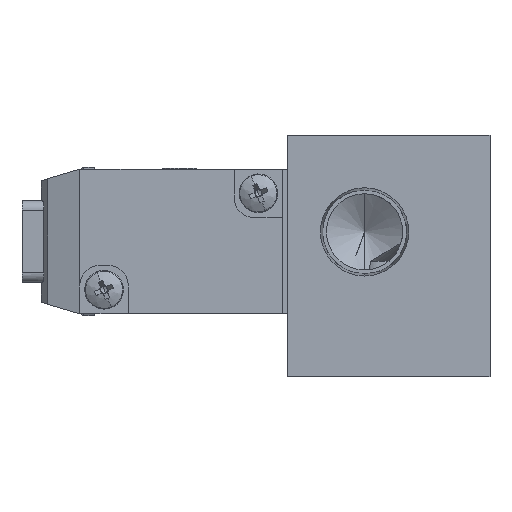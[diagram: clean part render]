
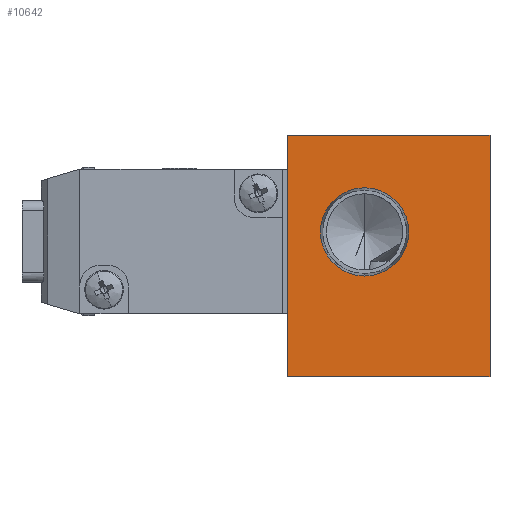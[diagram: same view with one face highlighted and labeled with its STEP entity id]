
A CAD part, left-side view. The second image highlights one B-rep face of the part: STEP entity #10642.
In plain terms, the highlighted planar face has unit normal (-1, 0, 0).
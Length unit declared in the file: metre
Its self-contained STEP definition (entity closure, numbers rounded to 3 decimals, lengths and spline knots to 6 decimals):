
#218 = VERTEX_POINT ( 'NONE', #10275 ) ;
#315 = EDGE_CURVE ( 'NONE', #7154, #218, #2086, .T. ) ;
#490 = DIRECTION ( 'NONE',  ( 0., 1., 0. ) ) ;
#773 = DIRECTION ( 'NONE',  ( 1., 0., 0. ) ) ;
#807 = EDGE_LOOP ( 'NONE', ( #4170, #5947, #7872, #9701 ) ) ;
#943 = CARTESIAN_POINT ( 'NONE',  ( -0.019, -0.0105, -0.014 ) ) ;
#1021 = VERTEX_POINT ( 'NONE', #5449 ) ;
#1144 = CARTESIAN_POINT ( 'NONE',  ( -0.019, 0., -0.014 ) ) ;
#1239 = DIRECTION ( 'NONE',  ( 0., 0., -1. ) ) ;
#1356 = VERTEX_POINT ( 'NONE', #8904 ) ;
#1371 = FACE_BOUND ( 'NONE', #10450, .T. ) ;
#1404 = ORIENTED_EDGE ( 'NONE', *, *, #10029, .T. ) ;
#1827 = LINE ( 'NONE', #1833, #6256 ) ;
#1833 = CARTESIAN_POINT ( 'NONE',  ( -0.019, 0., 0.011 ) ) ;
#1838 = PLANE ( 'NONE',  #9757 ) ;
#1849 = AXIS2_PLACEMENT_3D ( 'NONE', #5779, #773, #6611 ) ;
#1918 = DIRECTION ( 'NONE',  ( 0., 1., 0. ) ) ;
#2011 = LINE ( 'NONE', #3372, #3999 ) ;
#2086 = LINE ( 'NONE', #4574, #10093 ) ;
#2195 = EDGE_CURVE ( 'NONE', #7883, #1356, #7598, .T. ) ;
#2361 = AXIS2_PLACEMENT_3D ( 'NONE', #7173, #7182, #7193 ) ;
#2578 = ORIENTED_EDGE ( 'NONE', *, *, #2195, .T. ) ;
#2682 = DIRECTION ( 'NONE',  ( 0., 0., 1. ) ) ;
#3208 = EDGE_CURVE ( 'NONE', #218, #5365, #10304, .T. ) ;
#3372 = CARTESIAN_POINT ( 'NONE',  ( -0.019, 0.0105, -0.0015 ) ) ;
#3392 = DIRECTION ( 'NONE',  ( 0., 0., 1. ) ) ;
#3739 = EDGE_CURVE ( 'NONE', #5365, #1021, #2011, .T. ) ;
#3748 = VECTOR ( 'NONE', #490, 1. ) ;
#3885 = CIRCLE ( 'NONE', #1849, 0.004574 ) ;
#3999 = VECTOR ( 'NONE', #3392, 1. ) ;
#4170 = ORIENTED_EDGE ( 'NONE', *, *, #3739, .F. ) ;
#4574 = CARTESIAN_POINT ( 'NONE',  ( -0.019, -0.0105, -0.0015 ) ) ;
#5365 = VERTEX_POINT ( 'NONE', #7242 ) ;
#5449 = CARTESIAN_POINT ( 'NONE',  ( -0.019, 0.0105, 0.011 ) ) ;
#5779 = CARTESIAN_POINT ( 'NONE',  ( -0.019, 0.0025, 0.001 ) ) ;
#5850 = CARTESIAN_POINT ( 'NONE',  ( -0.019, -0.0105, 0.011 ) ) ;
#5947 = ORIENTED_EDGE ( 'NONE', *, *, #3208, .F. ) ;
#6256 = VECTOR ( 'NONE', #1918, 1. ) ;
#6611 = DIRECTION ( 'NONE',  ( 0., 0., 1. ) ) ;
#6708 = EDGE_CURVE ( 'NONE', #7154, #1021, #1827, .T. ) ;
#7154 = VERTEX_POINT ( 'NONE', #5850 ) ;
#7173 = CARTESIAN_POINT ( 'NONE',  ( -0.019, 0.0025, 0.001 ) ) ;
#7182 = DIRECTION ( 'NONE',  ( 1., 0., 0. ) ) ;
#7193 = DIRECTION ( 'NONE',  ( 0., 0., 1. ) ) ;
#7242 = CARTESIAN_POINT ( 'NONE',  ( -0.019, 0.0105, -0.014 ) ) ;
#7558 = CARTESIAN_POINT ( 'NONE',  ( -0.019, 0.0025, -0.003574 ) ) ;
#7598 = CIRCLE ( 'NONE', #2361, 0.004574 ) ;
#7611 = DIRECTION ( 'NONE',  ( -1., 0., 0. ) ) ;
#7872 = ORIENTED_EDGE ( 'NONE', *, *, #315, .F. ) ;
#7883 = VERTEX_POINT ( 'NONE', #7558 ) ;
#8904 = CARTESIAN_POINT ( 'NONE',  ( -0.019, 0.0025, 0.005574 ) ) ;
#9701 = ORIENTED_EDGE ( 'NONE', *, *, #6708, .T. ) ;
#9757 = AXIS2_PLACEMENT_3D ( 'NONE', #943, #7611, #2682 ) ;
#10029 = EDGE_CURVE ( 'NONE', #1356, #7883, #3885, .T. ) ;
#10093 = VECTOR ( 'NONE', #1239, 1. ) ;
#10162 = FACE_OUTER_BOUND ( 'NONE', #807, .T. ) ;
#10275 = CARTESIAN_POINT ( 'NONE',  ( -0.019, -0.0105, -0.014 ) ) ;
#10304 = LINE ( 'NONE', #1144, #3748 ) ;
#10450 = EDGE_LOOP ( 'NONE', ( #1404, #2578 ) ) ;
#10642 = ADVANCED_FACE ( 'NONE', ( #1371, #10162 ), #1838, .T. ) ;
